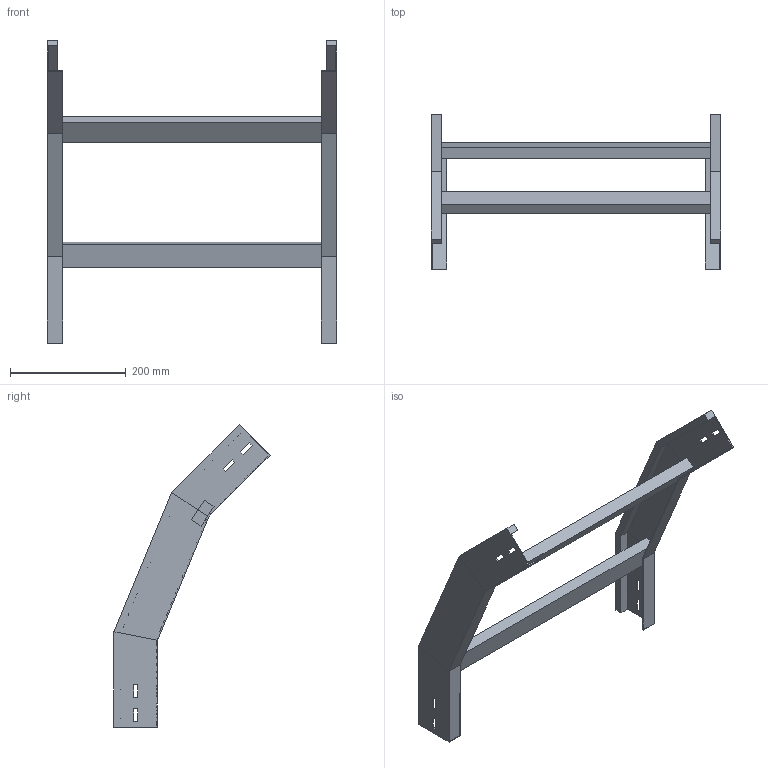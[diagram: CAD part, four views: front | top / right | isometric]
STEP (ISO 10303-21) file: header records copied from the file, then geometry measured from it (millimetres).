
FILE_DESCRIPTION (( 'STEP AP214' ), '1' );
FILE_NAME ('A2_34B3C500.step', '2025-02-21T14:55:01', ( '' ), ( '' ), 'SwSTEP 2.0', 'SolidWorks 2023', '' );
FILE_SCHEMA (( 'AUTOMOTIVE_DESIGN' ));
Length unit declared in the file: millimetre
Products named in the file (3): LONGH.DISCESA_45°_H75_R300; TRAVERSINO_500; A2_34B3C500
Assembly tree (5 placements, depth 2):
  A2_34B3C500
    LONGH.DISCESA_45°_H75_R300  x2
    TRAVERSINO_500  x3
Bounding box: 500 x 269.08 x 521.59 mm (x, y, z)
Volume: 1648448.1 mm3; surface area: 447882.9 mm2
Topology: 5 solids, 5 shells, 102 faces, 244 edges, 152 vertices
Faces by surface type: plane 102
Entity records: 1480 total; most frequent: CARTESIAN_POINT 244, ORIENTED_EDGE 232, DIRECTION 228, EDGE_CURVE 116, VECTOR 116, LINE 116, VERTEX_POINT 72, AXIS2_PLACEMENT_3D 56
